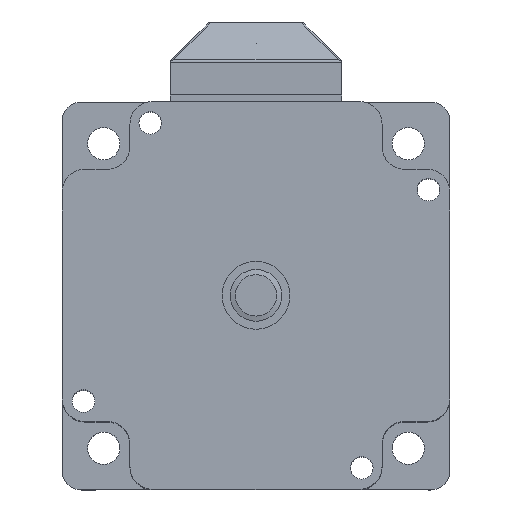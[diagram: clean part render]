
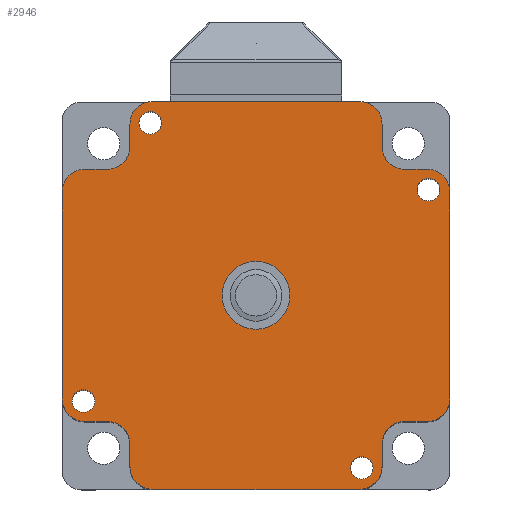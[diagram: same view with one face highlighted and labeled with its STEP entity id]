
A CAD part, top view. The second image highlights one B-rep face of the part: STEP entity #2946.
In plain terms, the highlighted planar face has unit normal (0, 0, 1).
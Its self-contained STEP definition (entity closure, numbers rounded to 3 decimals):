
#2004=CARTESIAN_POINT('',(60.,46.,59.));
#2005=VERTEX_POINT('',#2004);
#2012=CARTESIAN_POINT('',(56.5,49.5,59.));
#2013=VERTEX_POINT('',#2012);
#2014=CARTESIAN_POINT('',(56.5,46.,59.));
#2015=DIRECTION('',(0.,1.,0.));
#2016=DIRECTION('',(0.,0.,-1.));
#2017=AXIS2_PLACEMENT_3D('',#2014,#2016,#2015);
#2018=CIRCLE('',#2017,3.5);
#2019=EDGE_CURVE('',#2013,#2005,#2018,.T.);
#2043=CARTESIAN_POINT('',(60.,14.,59.));
#2044=VERTEX_POINT('',#2043);
#2051=CARTESIAN_POINT('',(60.,46.,59.));
#2052=DIRECTION('',(0.,-1.,0.));
#2053=VECTOR('',#2052,32.);
#2054=LINE('',#2051,#2053);
#2055=EDGE_CURVE('',#2005,#2044,#2054,.T.);
#2075=CARTESIAN_POINT('',(56.5,10.5,59.));
#2076=VERTEX_POINT('',#2075);
#2083=CARTESIAN_POINT('',(56.5,14.,59.));
#2084=DIRECTION('',(1.,0.,0.));
#2085=DIRECTION('',(0.,0.,-1.));
#2086=AXIS2_PLACEMENT_3D('',#2083,#2085,#2084);
#2087=CIRCLE('',#2086,3.5);
#2088=EDGE_CURVE('',#2044,#2076,#2087,.T.);
#2107=CARTESIAN_POINT('',(53.,10.5,59.));
#2108=VERTEX_POINT('',#2107);
#2115=CARTESIAN_POINT('',(56.5,10.5,59.));
#2116=DIRECTION('',(-1.,0.,0.));
#2117=VECTOR('',#2116,3.5);
#2118=LINE('',#2115,#2117);
#2119=EDGE_CURVE('',#2076,#2108,#2118,.T.);
#2139=CARTESIAN_POINT('',(49.5,7.,59.));
#2140=VERTEX_POINT('',#2139);
#2147=CARTESIAN_POINT('',(53.,7.,59.));
#2148=DIRECTION('',(0.,1.,0.));
#2149=DIRECTION('',(0.,0.,1.));
#2150=AXIS2_PLACEMENT_3D('',#2147,#2149,#2148);
#2151=CIRCLE('',#2150,3.5);
#2152=EDGE_CURVE('',#2108,#2140,#2151,.T.);
#2171=CARTESIAN_POINT('',(49.5,3.5,59.));
#2172=VERTEX_POINT('',#2171);
#2179=CARTESIAN_POINT('',(49.5,7.,59.));
#2180=DIRECTION('',(0.,-1.,0.));
#2181=VECTOR('',#2180,3.5);
#2182=LINE('',#2179,#2181);
#2183=EDGE_CURVE('',#2140,#2172,#2182,.T.);
#2203=CARTESIAN_POINT('',(46.,0.,59.));
#2204=VERTEX_POINT('',#2203);
#2211=CARTESIAN_POINT('',(46.,3.5,59.));
#2212=DIRECTION('',(1.,0.,0.));
#2213=DIRECTION('',(-0.,0.,-1.));
#2214=AXIS2_PLACEMENT_3D('',#2211,#2213,#2212);
#2215=CIRCLE('',#2214,3.5);
#2216=EDGE_CURVE('',#2172,#2204,#2215,.T.);
#2235=CARTESIAN_POINT('',(14.,0.,59.));
#2236=VERTEX_POINT('',#2235);
#2243=CARTESIAN_POINT('',(46.,0.,59.));
#2244=DIRECTION('',(-1.,0.,0.));
#2245=VECTOR('',#2244,32.);
#2246=LINE('',#2243,#2245);
#2247=EDGE_CURVE('',#2204,#2236,#2246,.T.);
#2267=CARTESIAN_POINT('',(10.5,3.5,59.));
#2268=VERTEX_POINT('',#2267);
#2275=CARTESIAN_POINT('',(14.,3.5,59.));
#2276=DIRECTION('',(0.,-1.,0.));
#2277=DIRECTION('',(0.,0.,-1.));
#2278=AXIS2_PLACEMENT_3D('',#2275,#2277,#2276);
#2279=CIRCLE('',#2278,3.5);
#2280=EDGE_CURVE('',#2236,#2268,#2279,.T.);
#2299=CARTESIAN_POINT('',(10.5,7.,59.));
#2300=VERTEX_POINT('',#2299);
#2307=CARTESIAN_POINT('',(10.5,3.5,59.));
#2308=DIRECTION('',(0.,1.,0.));
#2309=VECTOR('',#2308,3.5);
#2310=LINE('',#2307,#2309);
#2311=EDGE_CURVE('',#2268,#2300,#2310,.T.);
#2331=CARTESIAN_POINT('',(7.,10.5,59.));
#2332=VERTEX_POINT('',#2331);
#2339=CARTESIAN_POINT('',(7.,7.,59.));
#2340=DIRECTION('',(1.,0.,0.));
#2341=DIRECTION('',(0.,0.,1.));
#2342=AXIS2_PLACEMENT_3D('',#2339,#2341,#2340);
#2343=CIRCLE('',#2342,3.5);
#2344=EDGE_CURVE('',#2300,#2332,#2343,.T.);
#2363=CARTESIAN_POINT('',(3.5,10.5,59.));
#2364=VERTEX_POINT('',#2363);
#2371=CARTESIAN_POINT('',(7.,10.5,59.));
#2372=DIRECTION('',(-1.,0.,0.));
#2373=VECTOR('',#2372,3.5);
#2374=LINE('',#2371,#2373);
#2375=EDGE_CURVE('',#2332,#2364,#2374,.T.);
#2395=CARTESIAN_POINT('',(0.,14.,59.));
#2396=VERTEX_POINT('',#2395);
#2403=CARTESIAN_POINT('',(3.5,14.,59.));
#2404=DIRECTION('',(0.,-1.,0.));
#2405=DIRECTION('',(0.,0.,-1.));
#2406=AXIS2_PLACEMENT_3D('',#2403,#2405,#2404);
#2407=CIRCLE('',#2406,3.5);
#2408=EDGE_CURVE('',#2364,#2396,#2407,.T.);
#2427=CARTESIAN_POINT('',(0.,46.,59.));
#2428=VERTEX_POINT('',#2427);
#2435=CARTESIAN_POINT('',(0.,14.,59.));
#2436=DIRECTION('',(0.,1.,0.));
#2437=VECTOR('',#2436,32.);
#2438=LINE('',#2435,#2437);
#2439=EDGE_CURVE('',#2396,#2428,#2438,.T.);
#2459=CARTESIAN_POINT('',(3.5,49.5,59.));
#2460=VERTEX_POINT('',#2459);
#2467=CARTESIAN_POINT('',(3.5,46.,59.));
#2468=DIRECTION('',(-1.,0.,0.));
#2469=DIRECTION('',(0.,0.,-1.));
#2470=AXIS2_PLACEMENT_3D('',#2467,#2469,#2468);
#2471=CIRCLE('',#2470,3.5);
#2472=EDGE_CURVE('',#2428,#2460,#2471,.T.);
#2491=CARTESIAN_POINT('',(7.,49.5,59.));
#2492=VERTEX_POINT('',#2491);
#2499=CARTESIAN_POINT('',(3.5,49.5,59.));
#2500=DIRECTION('',(1.,0.,0.));
#2501=VECTOR('',#2500,3.5);
#2502=LINE('',#2499,#2501);
#2503=EDGE_CURVE('',#2460,#2492,#2502,.T.);
#2523=CARTESIAN_POINT('',(10.5,53.,59.));
#2524=VERTEX_POINT('',#2523);
#2531=CARTESIAN_POINT('',(7.,53.,59.));
#2532=DIRECTION('',(0.,-1.,0.));
#2533=DIRECTION('',(0.,0.,1.));
#2534=AXIS2_PLACEMENT_3D('',#2531,#2533,#2532);
#2535=CIRCLE('',#2534,3.5);
#2536=EDGE_CURVE('',#2492,#2524,#2535,.T.);
#2555=CARTESIAN_POINT('',(10.5,56.5,59.));
#2556=VERTEX_POINT('',#2555);
#2563=CARTESIAN_POINT('',(10.5,53.,59.));
#2564=DIRECTION('',(0.,1.,0.));
#2565=VECTOR('',#2564,3.5);
#2566=LINE('',#2563,#2565);
#2567=EDGE_CURVE('',#2524,#2556,#2566,.T.);
#2587=CARTESIAN_POINT('',(14.,60.,59.));
#2588=VERTEX_POINT('',#2587);
#2595=CARTESIAN_POINT('',(14.,56.5,59.));
#2596=DIRECTION('',(-1.,0.,0.));
#2597=DIRECTION('',(0.,0.,-1.));
#2598=AXIS2_PLACEMENT_3D('',#2595,#2597,#2596);
#2599=CIRCLE('',#2598,3.5);
#2600=EDGE_CURVE('',#2556,#2588,#2599,.T.);
#2619=CARTESIAN_POINT('',(46.,60.,59.));
#2620=VERTEX_POINT('',#2619);
#2627=CARTESIAN_POINT('',(14.,60.,59.));
#2628=DIRECTION('',(1.,0.,0.));
#2629=VECTOR('',#2628,32.);
#2630=LINE('',#2627,#2629);
#2631=EDGE_CURVE('',#2588,#2620,#2630,.T.);
#2651=CARTESIAN_POINT('',(49.5,56.5,59.));
#2652=VERTEX_POINT('',#2651);
#2659=CARTESIAN_POINT('',(46.,56.5,59.));
#2660=DIRECTION('',(0.,1.,0.));
#2661=DIRECTION('',(0.,0.,-1.));
#2662=AXIS2_PLACEMENT_3D('',#2659,#2661,#2660);
#2663=CIRCLE('',#2662,3.5);
#2664=EDGE_CURVE('',#2620,#2652,#2663,.T.);
#2683=CARTESIAN_POINT('',(49.5,53.,59.));
#2684=VERTEX_POINT('',#2683);
#2691=CARTESIAN_POINT('',(49.5,56.5,59.));
#2692=DIRECTION('',(0.,-1.,0.));
#2693=VECTOR('',#2692,3.5);
#2694=LINE('',#2691,#2693);
#2695=EDGE_CURVE('',#2652,#2684,#2694,.T.);
#2715=CARTESIAN_POINT('',(53.,49.5,59.));
#2716=VERTEX_POINT('',#2715);
#2723=CARTESIAN_POINT('',(53.,53.,59.));
#2724=DIRECTION('',(-1.,0.,0.));
#2725=DIRECTION('',(-0.,0.,1.));
#2726=AXIS2_PLACEMENT_3D('',#2723,#2725,#2724);
#2727=CIRCLE('',#2726,3.5);
#2728=EDGE_CURVE('',#2684,#2716,#2727,.T.);
#2746=CARTESIAN_POINT('',(53.,49.5,59.));
#2747=DIRECTION('',(1.,0.,0.));
#2748=VECTOR('',#2747,3.5);
#2749=LINE('',#2746,#2748);
#2750=EDGE_CURVE('',#2716,#2013,#2749,.T.);
#2761=CARTESIAN_POINT('',(30.,35.25,59.));
#2762=VERTEX_POINT('',#2761);
#2763=CARTESIAN_POINT('',(30.,30.,59.));
#2764=DIRECTION('',(0.,1.,0.));
#2765=DIRECTION('',(0.,0.,-1.));
#2766=AXIS2_PLACEMENT_3D('',#2763,#2765,#2764);
#2767=CIRCLE('',#2766,5.25);
#2768=EDGE_CURVE('',#2762,#2762,#2767,.T.);
#2868=CARTESIAN_POINT('',(30.,30.,59.));
#2869=DIRECTION('',(1.,0.,0.));
#2870=DIRECTION('',(0.,0.,-1.));
#2871=AXIS2_PLACEMENT_3D('',#2868,#2870,#2869);
#2872=PLANE('',#2871);
#2873=ORIENTED_EDGE('',*,*,#2019,.T.);
#2874=ORIENTED_EDGE('',*,*,#2055,.T.);
#2875=ORIENTED_EDGE('',*,*,#2088,.T.);
#2876=ORIENTED_EDGE('',*,*,#2119,.T.);
#2877=ORIENTED_EDGE('',*,*,#2152,.T.);
#2878=ORIENTED_EDGE('',*,*,#2183,.T.);
#2879=ORIENTED_EDGE('',*,*,#2216,.T.);
#2880=ORIENTED_EDGE('',*,*,#2247,.T.);
#2881=ORIENTED_EDGE('',*,*,#2280,.T.);
#2882=ORIENTED_EDGE('',*,*,#2311,.T.);
#2883=ORIENTED_EDGE('',*,*,#2344,.T.);
#2884=ORIENTED_EDGE('',*,*,#2375,.T.);
#2885=ORIENTED_EDGE('',*,*,#2408,.T.);
#2886=ORIENTED_EDGE('',*,*,#2439,.T.);
#2887=ORIENTED_EDGE('',*,*,#2472,.T.);
#2888=ORIENTED_EDGE('',*,*,#2503,.T.);
#2889=ORIENTED_EDGE('',*,*,#2536,.T.);
#2890=ORIENTED_EDGE('',*,*,#2567,.T.);
#2891=ORIENTED_EDGE('',*,*,#2600,.T.);
#2892=ORIENTED_EDGE('',*,*,#2631,.T.);
#2893=ORIENTED_EDGE('',*,*,#2664,.T.);
#2894=ORIENTED_EDGE('',*,*,#2695,.T.);
#2895=ORIENTED_EDGE('',*,*,#2728,.T.);
#2896=ORIENTED_EDGE('',*,*,#2750,.T.);
#2897=EDGE_LOOP('',(#2873,#2874,#2875,#2876,#2877,#2878,#2879,#2880,#2881,#2882,#2883,#2884,#2885,#2886,#2887,#2888,#2889,#2890,#2891,#2892,#2893,#2894,#2895,#2896));
#2898=FACE_OUTER_BOUND('',#2897,.F.);
#2899=ORIENTED_EDGE('',*,*,#2768,.F.);
#2900=EDGE_LOOP('',(#2899));
#2901=FACE_BOUND('',#2900,.F.);
#2902=CARTESIAN_POINT('',(56.688,48.104,59.));
#2903=VERTEX_POINT('',#2902);
#2904=CARTESIAN_POINT('',(56.688,46.354,59.));
#2905=DIRECTION('',(0.,1.,0.));
#2906=DIRECTION('',(0.,0.,-1.));
#2907=AXIS2_PLACEMENT_3D('',#2904,#2906,#2905);
#2908=CIRCLE('',#2907,1.75);
#2909=EDGE_CURVE('',#2903,#2903,#2908,.T.);
#2910=ORIENTED_EDGE('E309',*,*,#2909,.F.);
#2911=EDGE_LOOP('',(#2910));
#2912=FACE_BOUND('',#2911,.F.);
#2913=CARTESIAN_POINT('',(46.354,5.062,59.));
#2914=VERTEX_POINT('',#2913);
#2915=CARTESIAN_POINT('',(46.354,3.312,59.));
#2916=DIRECTION('',(0.,1.,0.));
#2917=DIRECTION('',(0.,0.,-1.));
#2918=AXIS2_PLACEMENT_3D('',#2915,#2917,#2916);
#2919=CIRCLE('',#2918,1.75);
#2920=EDGE_CURVE('',#2914,#2914,#2919,.T.);
#2921=ORIENTED_EDGE('E311',*,*,#2920,.F.);
#2922=EDGE_LOOP('',(#2921));
#2923=FACE_BOUND('',#2922,.F.);
#2924=CARTESIAN_POINT('',(13.646,58.438,59.));
#2925=VERTEX_POINT('',#2924);
#2926=CARTESIAN_POINT('',(13.646,56.688,59.));
#2927=DIRECTION('',(0.,1.,0.));
#2928=DIRECTION('',(0.,0.,-1.));
#2929=AXIS2_PLACEMENT_3D('',#2926,#2928,#2927);
#2930=CIRCLE('',#2929,1.75);
#2931=EDGE_CURVE('',#2925,#2925,#2930,.T.);
#2932=ORIENTED_EDGE('E312',*,*,#2931,.F.);
#2933=EDGE_LOOP('',(#2932));
#2934=FACE_BOUND('',#2933,.F.);
#2935=CARTESIAN_POINT('',(3.312,15.396,59.));
#2936=VERTEX_POINT('',#2935);
#2937=CARTESIAN_POINT('',(3.312,13.646,59.));
#2938=DIRECTION('',(0.,1.,0.));
#2939=DIRECTION('',(0.,0.,-1.));
#2940=AXIS2_PLACEMENT_3D('',#2937,#2939,#2938);
#2941=CIRCLE('',#2940,1.75);
#2942=EDGE_CURVE('',#2936,#2936,#2941,.T.);
#2943=ORIENTED_EDGE('E310',*,*,#2942,.F.);
#2944=EDGE_LOOP('',(#2943));
#2945=FACE_BOUND('',#2944,.F.);
#2946=ADVANCED_FACE('F89',(#2898,#2901,#2912,#2923,#2934,#2945),#2872,.F.);
